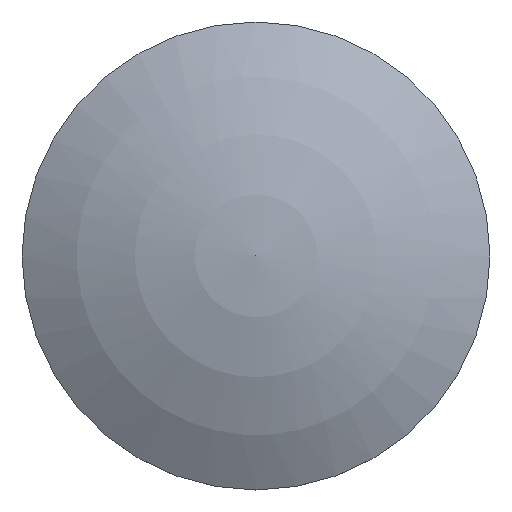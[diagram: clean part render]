
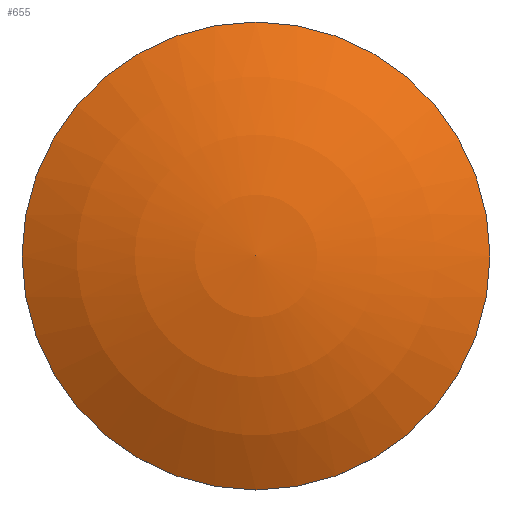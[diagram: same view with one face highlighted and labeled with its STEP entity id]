
A CAD part, top view. The second image highlights one B-rep face of the part: STEP entity #655.
In plain terms, the highlighted spherical face has radius 47.558 mm.
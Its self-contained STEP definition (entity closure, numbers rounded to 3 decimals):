
#588 = CYLINDRICAL_SURFACE('',#589,24.);
#589 = AXIS2_PLACEMENT_3D('',#590,#591,#592);
#590 = CARTESIAN_POINT('',(0.,0.,0.8));
#591 = DIRECTION('',(0.,0.,1.));
#592 = DIRECTION('',(1.,0.,-0.));
#606 = VERTEX_POINT('',#607);
#607 = CARTESIAN_POINT('',(24.,0.,2.));
#628 = EDGE_CURVE('',#606,#606,#629,.T.);
#629 = SURFACE_CURVE('',#630,(#635,#642),.PCURVE_S1.);
#630 = CIRCLE('',#631,24.);
#631 = AXIS2_PLACEMENT_3D('',#632,#633,#634);
#632 = CARTESIAN_POINT('',(0.,0.,2.));
#633 = DIRECTION('',(0.,0.,1.));
#634 = DIRECTION('',(1.,0.,-0.));
#635 = PCURVE('',#588,#636);
#636 = DEFINITIONAL_REPRESENTATION('',(#637),#641);
#637 = LINE('',#638,#639);
#638 = CARTESIAN_POINT('',(0.,1.2));
#639 = VECTOR('',#640,1.);
#640 = DIRECTION('',(1.,0.));
#641 = ( GEOMETRIC_REPRESENTATION_CONTEXT(2) 
PARAMETRIC_REPRESENTATION_CONTEXT() REPRESENTATION_CONTEXT('2D SPACE',''
  ) );
#642 = PCURVE('',#643,#648);
#643 = SPHERICAL_SURFACE('',#644,47.558);
#644 = AXIS2_PLACEMENT_3D('',#645,#646,#647);
#645 = CARTESIAN_POINT('',(0.,0.,-39.058));
#646 = DIRECTION('',(0.,0.,1.));
#647 = DIRECTION('',(1.,0.,-0.));
#648 = DEFINITIONAL_REPRESENTATION('',(#649),#653);
#649 = LINE('',#650,#651);
#650 = CARTESIAN_POINT('',(0.,1.042));
#651 = VECTOR('',#652,1.);
#652 = DIRECTION('',(1.,0.));
#653 = ( GEOMETRIC_REPRESENTATION_CONTEXT(2) 
PARAMETRIC_REPRESENTATION_CONTEXT() REPRESENTATION_CONTEXT('2D SPACE',''
  ) );
#655 = ADVANCED_FACE('',(#656),#643,.T.);
#656 = FACE_BOUND('',#657,.T.);
#657 = EDGE_LOOP('',(#658,#659,#683));
#658 = ORIENTED_EDGE('',*,*,#628,.T.);
#659 = ORIENTED_EDGE('',*,*,#660,.T.);
#660 = EDGE_CURVE('',#606,#661,#663,.T.);
#661 = VERTEX_POINT('',#662);
#662 = CARTESIAN_POINT('',(0.,0.,8.5));
#663 = SEAM_CURVE('',#664,(#669,#676),.PCURVE_S1.);
#664 = CIRCLE('',#665,47.558);
#665 = AXIS2_PLACEMENT_3D('',#666,#667,#668);
#666 = CARTESIAN_POINT('',(0.,0.,-39.058));
#667 = DIRECTION('',(0.,-1.,0.));
#668 = DIRECTION('',(0.505,0.,0.863));
#669 = PCURVE('',#643,#670);
#670 = DEFINITIONAL_REPRESENTATION('',(#671),#675);
#671 = LINE('',#672,#673);
#672 = CARTESIAN_POINT('',(0.,1.042));
#673 = VECTOR('',#674,1.);
#674 = DIRECTION('',(0.,1.));
#675 = ( GEOMETRIC_REPRESENTATION_CONTEXT(2) 
PARAMETRIC_REPRESENTATION_CONTEXT() REPRESENTATION_CONTEXT('2D SPACE',''
  ) );
#676 = PCURVE('',#643,#677);
#677 = DEFINITIONAL_REPRESENTATION('',(#678),#682);
#678 = LINE('',#679,#680);
#679 = CARTESIAN_POINT('',(6.283,1.042));
#680 = VECTOR('',#681,1.);
#681 = DIRECTION('',(0.,1.));
#682 = ( GEOMETRIC_REPRESENTATION_CONTEXT(2) 
PARAMETRIC_REPRESENTATION_CONTEXT() REPRESENTATION_CONTEXT('2D SPACE',''
  ) );
#683 = ORIENTED_EDGE('',*,*,#660,.F.);
